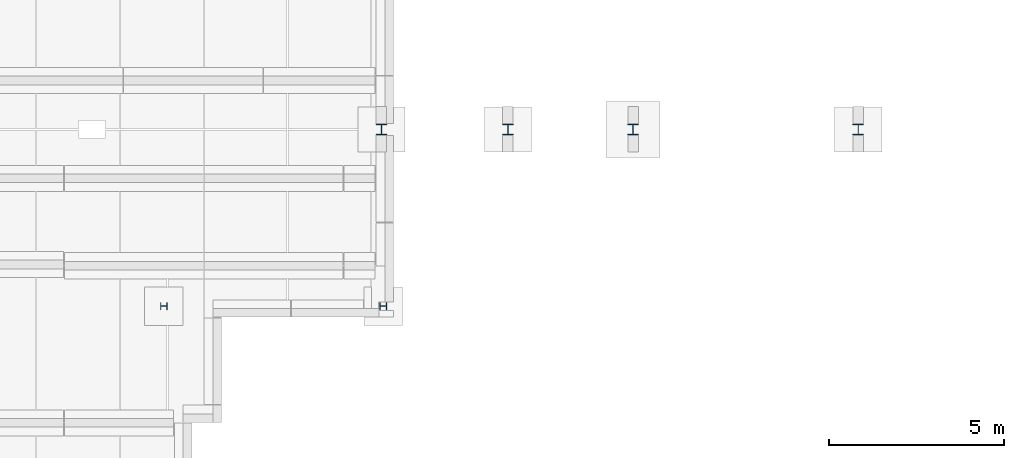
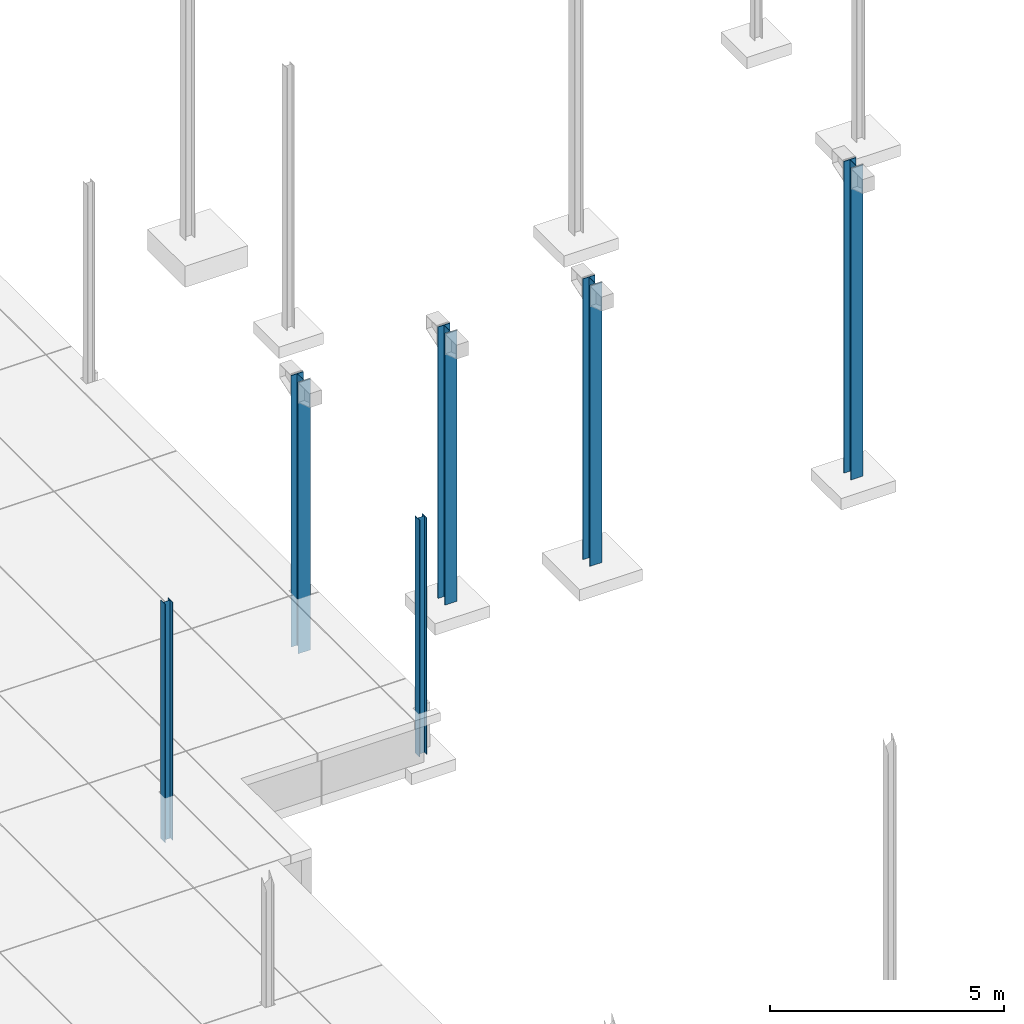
# One storey, part 36 of 59: 6 columns.
"""IFC2X3 building model written with IfcOpenShell, lengths in metres."""

import ifcopenshell
import ifcopenshell.guid

model = None  # the IFC model being written
_history = None  # IfcOwnerHistory: only IFC2X3 demands one
_inside = {}  # id of a spatial element -> (the spatial element, [elements in it])
_under = {}  # id of a project, library or spatial element -> (it, [spatial elements below it])
_declared = {}  # id of a project -> (the project, [libraries it declares])
_typed = {}  # id of a type object -> (the type object, [elements of that type])
_made_of = {}  # id of a material, layer set ... -> (it, [elements and type objects made of it])


def new_model(schema):
    """Start an empty IFC model of exactly this schema.

    Asked for "IFC4X3", IfcOpenShell would pick the latest addendum, in which some entities
    have other attributes; the version numbers below select the first issue.
    IFC2X3 requires an IfcOwnerHistory on every rooted entity: one is made here for all.
    """
    global model, _history
    if schema == "IFC4X3":
        model = ifcopenshell.file(schema_version=(4, 3, 0, 0))
    else:
        model = ifcopenshell.file(schema=schema)
    _inside.clear()
    _under.clear()
    _declared.clear()
    _typed.clear()
    _made_of.clear()
    _history = None
    if model.schema == "IFC2X3":
        org = make("IfcOrganization", Name="unknown")
        user = make(
            "IfcPersonAndOrganization",
            ThePerson=make("IfcPerson", FamilyName="unknown"),
            TheOrganization=org,
        )
        app = make(
            "IfcApplication",
            ApplicationDeveloper=org,
            Version="unknown",
            ApplicationFullName="unknown",
            ApplicationIdentifier="unknown",
        )
        _history = make(
            "IfcOwnerHistory",
            OwningUser=user,
            OwningApplication=app,
            ChangeAction="ADDED",
            CreationDate=0,
        )
    return model


def make(cls, **values):
    """One entity of the class cls with the attributes given. An attribute that is None is left unset."""
    return model.create_entity(
        cls, **{name: value for name, value in values.items() if value is not None}
    )


def entity(cls, *values):
    """Any entity or typed value of the class cls, its attributes in the order of the schema. None: left unset."""
    e = model.create_entity(cls)
    for i, value in enumerate(values):
        if value is not None:
            e[i] = value
    return e


def rooted(cls, **values):
    """An entity with a GlobalId (a new one), such as an element, a storey or a relation."""
    return make(cls, GlobalId=ifcopenshell.guid.new(), OwnerHistory=_history, **values)


def si_unit(unit_type, name, prefix=None):
    """IfcSIUnit, for example si_unit("LENGTHUNIT", "METRE", prefix="MILLI")."""
    return make("IfcSIUnit", UnitType=unit_type, Prefix=prefix, Name=name)


def converted_unit(unit_type, name, factor, base, dimensions=None, offset=None):
    """IfcConversionBasedUnit, such as the inch: factor (a typed value) times the base unit."""
    return make(
        "IfcConversionBasedUnit"
        if offset is None
        else "IfcConversionBasedUnitWithOffset",
        ConversionOffset=offset,
        Dimensions=None
        if dimensions is None
        else entity("IfcDimensionalExponents", *dimensions),
        UnitType=unit_type,
        Name=name,
        ConversionFactor=make(
            "IfcMeasureWithUnit", ValueComponent=factor, UnitComponent=base
        ),
    )


def derived_unit(unit_type, elements):
    """IfcDerivedUnit: a product of units, each with its exponent."""
    return make(
        "IfcDerivedUnit",
        Elements=[
            make("IfcDerivedUnitElement", Unit=unit, Exponent=power)
            for unit, power in elements
        ],
        UnitType=unit_type,
    )


def assignment(units):
    """IfcUnitAssignment: the units of a project."""
    return None if units is None else make("IfcUnitAssignment", Units=units)


def point(xyz):
    """IfcCartesianPoint."""
    return None if xyz is None else make("IfcCartesianPoint", Coordinates=xyz)


def direction(xyz):
    """IfcDirection."""
    return None if xyz is None else make("IfcDirection", DirectionRatios=xyz)


def frame(location, z_axis=None, x_axis=None):
    """IfcAxis2Placement3D, a coordinate frame: its origin and axes. An axis left out is left unset."""
    return make(
        "IfcAxis2Placement3D",
        Location=point(location),
        Axis=direction(z_axis),
        RefDirection=direction(x_axis),
    )


def origin():
    """The frame at (0, 0, 0) with its axes left unset."""
    return frame((0.0, 0.0, 0.0))


def origin_with_axes():
    """The frame at (0, 0, 0) with the z axis (0, 0, 1) and the x axis (1, 0, 0) written out."""
    return frame((0.0, 0.0, 0.0), z_axis=(0.0, 0.0, 1.0), x_axis=(1.0, 0.0, 0.0))


def place(relative_to, where):
    """IfcLocalPlacement: puts the frame where relative to a parent placement (None: the world)."""
    return make(
        "IfcLocalPlacement", PlacementRelTo=relative_to, RelativePlacement=where
    )


def context(
    kind, dimensions, precision=None, world=None, true_north=None, identifier=None
):
    """IfcGeometricRepresentationContext, for example the 3D "Model" context."""
    return make(
        "IfcGeometricRepresentationContext",
        ContextIdentifier=identifier,
        ContextType=kind,
        CoordinateSpaceDimension=dimensions,
        Precision=precision,
        WorldCoordinateSystem=world,
        TrueNorth=true_north,
    )


def subcontext(parent, identifier, kind, view, scale=None):
    """IfcGeometricRepresentationSubContext, for example "Body" below "Model"."""
    return make(
        "IfcGeometricRepresentationSubContext",
        ContextIdentifier=identifier,
        ContextType=kind,
        ParentContext=parent,
        TargetScale=scale,
        TargetView=view,
    )


def project(units=None, contexts=None):
    """IfcProject with its units and contexts."""
    return rooted(
        "IfcProject",
        Name="project",
        RepresentationContexts=contexts,
        UnitsInContext=assignment(units),
    )


def spatial(cls, under=None, at=None, **own):
    """A site, building, storey or space (cls), placed at a placement, below another one or the project."""
    s = rooted(cls, ObjectPlacement=at, **own)
    if under is not None:
        _under.setdefault(under.id(), (under, []))[1].append(s)
    return s


def polyline(points):
    """IfcPolyline through the points."""
    return make("IfcPolyline", Points=[point(p) for p in points])


def outline(outer, holes=None, kind="AREA"):
    """IfcArbitraryClosedProfileDef: a profile drawn as a closed curve; with holes, ...WithVoids."""
    if holes is None:
        return make("IfcArbitraryClosedProfileDef", ProfileType=kind, OuterCurve=outer)
    return make(
        "IfcArbitraryProfileDefWithVoids",
        ProfileType=kind,
        OuterCurve=outer,
        InnerCurves=holes,
    )


def extrude(swept, where, along, depth):
    """IfcExtrudedAreaSolid: the profile swept, set in the frame where, extruded along a direction by depth."""
    return make(
        "IfcExtrudedAreaSolid",
        SweptArea=swept,
        Position=where,
        ExtrudedDirection=direction(along),
        Depth=depth,
    )


def shape(context_of_items, identifier, shape_type, items):
    """IfcShapeRepresentation: the items that make up one representation, for example the "Body"."""
    return make(
        "IfcShapeRepresentation",
        ContextOfItems=context_of_items,
        RepresentationIdentifier=identifier,
        RepresentationType=shape_type,
        Items=items,
    )


def material(Name=None, Category=None):
    """IfcMaterial."""
    return make("IfcMaterial", Name=Name, Category=Category)


def made_of(thing, what):
    """Note that an element or type object is made of a material, layer set ...; save() writes the relation."""
    if what is not None:
        _made_of.setdefault(what.id(), (what, []))[1].append(thing)
    return thing


def element(
    cls,
    number,
    at=None,
    inside=None,
    cuts=None,
    type_object=None,
    material=None,
    context=None,
    identifier="Body",
    shape_type=None,
    held_by="IfcProductDefinitionShape",
    body=None,
    shapes=None,
    **own,
):
    """One element of the class cls, such as IfcWall. Its Tag is "e" and its number.

    at: its placement. inside: the storey or other place that contains it. cuts: it is an
    opening in that element (IfcRelVoidsElement). A single representation is given by context,
    identifier, shape_type and body (its items); several are given by shapes. held_by: the class
    of the entity that holds the representations. save() writes the other relations.
    """
    e = rooted(cls, Tag="e%d" % number, ObjectPlacement=at, **own)
    if body is not None:
        shapes = [shape(context, identifier, shape_type, body)]
    if shapes is not None:
        e.Representation = make(held_by, Representations=shapes)
    if inside is not None:
        _inside.setdefault(inside.id(), (inside, []))[1].append(e)
    if cuts is not None:
        rooted(
            "IfcRelVoidsElement", RelatingBuildingElement=cuts, RelatedOpeningElement=e
        )
    if type_object is not None:
        _typed.setdefault(type_object.id(), (type_object, []))[1].append(e)
    return made_of(e, material)


def aggregate(whole, parts):
    """IfcRelAggregates: a whole, such as a stair, and the parts it consists of."""
    return rooted("IfcRelAggregates", RelatingObject=whole, RelatedObjects=parts)


def save(model, path):
    """Write the relations noted so far, then the file.

    IfcRelAggregates (storeys below a building ...), IfcRelContainedInSpatialStructure (elements
    in a storey), IfcRelDefinesByType, IfcRelAssociatesMaterial and IfcRelDeclares: one each for
    every whole, place, type object, material and project.
    """
    for whole, parts in _under.values():
        aggregate(whole, parts)
    for where, things in _inside.values():
        rooted(
            "IfcRelContainedInSpatialStructure",
            RelatedElements=things,
            RelatingStructure=where,
        )
    for kind, things in _typed.values():
        rooted("IfcRelDefinesByType", RelatedObjects=things, RelatingType=kind)
    for what, things in _made_of.values():
        rooted("IfcRelAssociatesMaterial", RelatedObjects=things, RelatingMaterial=what)
    for by, libraries in _declared.values():
        rooted("IfcRelDeclares", RelatingContext=by, RelatedDefinitions=libraries)
    model.write(path)


model = new_model("IFC2X3")

# Units and contexts
model_context = context("Model", 3, precision=1e-05, world=origin())
body_context = subcontext(model_context, "Body", "Model", "MODEL_VIEW")
ifc_project = project(units=[si_unit("LENGTHUNIT", "METRE"), si_unit("AREAUNIT", "SQUARE_METRE"), si_unit("VOLUMEUNIT", "CUBIC_METRE"), si_unit("MASSUNIT", "GRAM", prefix="KILO"), converted_unit("PLANEANGLEUNIT", "DEGREE", entity("IfcPlaneAngleMeasure", 0.0174532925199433), si_unit("PLANEANGLEUNIT", "RADIAN"), dimensions=[0, 0, 0, 0, 0, 0, 0]), derived_unit("THERMALTRANSMITTANCEUNIT", [(si_unit("POWERUNIT", "WATT"), 1), (si_unit("THERMODYNAMICTEMPERATUREUNIT", "KELVIN"), -1), (si_unit("LENGTHUNIT", "METRE"), -2)]), derived_unit("VOLUMETRICFLOWRATEUNIT", [(si_unit("LENGTHUNIT", "METRE"), 3), (converted_unit("TIMEUNIT", "hour", entity("IfcTimeMeasure", 3600.0), si_unit("TIMEUNIT", "SECOND"), dimensions=[0, 0, 1, 0, 0, 0, 0]), -1), (si_unit("LENGTHUNIT", "METRE"), -1)])], contexts=[model_context])

# Site, building, storey
site_placement = place(None, origin())
site = spatial("IfcSite", under=ifc_project, at=site_placement, Name="TWP_Speiseverteilzentrum SBW VZ II", CompositionType="ELEMENT")
building_placement = place(site_placement, origin())
building = spatial("IfcBuilding", under=site, at=building_placement, Name="Speiseverteilzentrum SBW VZ II", CompositionType="ELEMENT")
storey_placement = place(building_placement, frame((0.0, 0.0, 1.7307)))
storey = spatial("IfcBuildingStorey", under=building, at=storey_placement, Name="EG_Produktion_FFB", CompositionType="ELEMENT", Elevation=1.7307)

# Columns
ifc_material_1 = material(Name="S235")
column_1_placement = place(storey_placement, frame((68.3545010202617, 65.2445685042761, -1.45)))
element("IfcColumn", 1, at=column_1_placement, inside=storey, material=ifc_material_1, Name="Stahlstütze", context=body_context, shape_type="SweptSolid", body=[
    extrude(outline(polyline([(0.19, 0.0), (0.19, 0.2), (0.18, 0.2), (0.18, 0.10325), (0.01, 0.10325), (0.01, 0.2), (0.0, 0.2), (0.0, 0.0), (0.01, 0.0), (0.01, 0.09675), (0.18, 0.09675), (0.18, 0.0), (0.19, 0.0)])), origin_with_axes(), (0.0, 0.0, 1.0), 6.22),
])
ifc_material_2 = material(Name="S235")
column_2_placement = place(storey_placement, frame((74.63437918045, 65.2445685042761, -1.41)))
element("IfcColumn", 2, at=column_2_placement, inside=storey, material=ifc_material_2, Name="Stahlstütze", context=body_context, shape_type="SweptSolid", body=[
    extrude(outline(polyline([(0.19, 0.0), (0.19, 0.2), (0.18, 0.2), (0.18, 0.10325), (0.01, 0.10325), (0.01, 0.2), (0.0, 0.2), (0.0, 0.0), (0.01, 0.0), (0.01, 0.09675), (0.18, 0.09675), (0.18, 0.0), (0.19, 0.0)])), origin_with_axes(), (0.0, 0.0, 1.0), 6.18),
])
ifc_material_3 = material(Name="S235")
column_3_placement = place(storey_placement, frame((81.73, 70.2451031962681, -1.95)))
element("IfcColumn", 3, at=column_3_placement, inside=storey, material=ifc_material_3, Name="Stahlstütze", context=body_context, shape_type="SweptSolid", body=[
    extrude(outline(polyline([(0.0, 0.0), (0.3, 0.0), (0.3, 0.0155), (0.1545, 0.0155), (0.1545, 0.2945), (0.3, 0.2945), (0.3, 0.31), (0.0, 0.31), (0.0, 0.2945), (0.1455, 0.2945), (0.1455, 0.0155), (0.0, 0.0155), (0.0, 0.0)])), origin_with_axes(), (0.0, 0.0, 1.0), 7.3293),
])
ifc_material_4 = material(Name="S235")
column_4_placement = place(storey_placement, frame((88.1766307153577, 70.2451031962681, -1.95)))
element("IfcColumn", 4, at=column_4_placement, inside=storey, material=ifc_material_4, Name="Stahlstütze", context=body_context, shape_type="SweptSolid", body=[
    extrude(outline(polyline([(0.0, 0.0), (0.3, 0.0), (0.3, 0.0155), (0.1545, 0.0155), (0.1545, 0.2945), (0.3, 0.2945), (0.3, 0.31), (0.0, 0.31), (0.0, 0.2945), (0.1455, 0.2945), (0.1455, 0.0155), (0.0, 0.0155), (0.0, 0.0)])), origin_with_axes(), (0.0, 0.0, 1.0), 8.1393),
])
ifc_material_5 = material(Name="S235")
column_5_placement = place(storey_placement, frame((74.5250000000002, 70.2451031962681, -1.71)))
element("IfcColumn", 5, at=column_5_placement, inside=storey, material=ifc_material_5, Name="Stahlstütze", context=body_context, shape_type="SweptSolid", body=[
    extrude(outline(polyline([(0.0, 0.0), (0.3, 0.0), (0.3, 0.0155), (0.1545, 0.0155), (0.1545, 0.2945), (0.3, 0.2945), (0.3, 0.31), (0.0, 0.31), (0.0, 0.2945), (0.1455, 0.2945), (0.1455, 0.0155), (0.0, 0.0155), (0.0, 0.0)])), origin_with_axes(), (0.0, 0.0, 1.0), 7.0893),
])
ifc_material_6 = material(Name="S235")
column_6_placement = place(storey_placement, frame((78.1500000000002, 70.2451031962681, -1.71)))
element("IfcColumn", 6, at=column_6_placement, inside=storey, material=ifc_material_6, Name="Stahlstütze", context=body_context, shape_type="SweptSolid", body=[
    extrude(outline(polyline([(0.0, 0.0), (0.3, 0.0), (0.3, 0.0155), (0.1545, 0.0155), (0.1545, 0.2945), (0.3, 0.2945), (0.3, 0.31), (0.0, 0.31), (0.0, 0.2945), (0.1455, 0.2945), (0.1455, 0.0155), (0.0, 0.0155), (0.0, 0.0)])), origin_with_axes(), (0.0, 0.0, 1.0), 7.0893),
])

save(model, "model.ifc")
